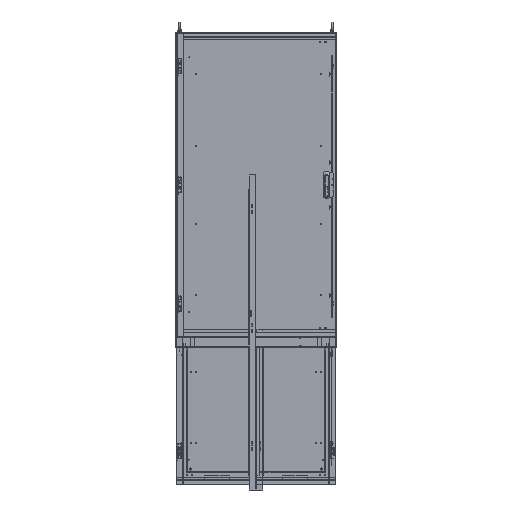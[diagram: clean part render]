
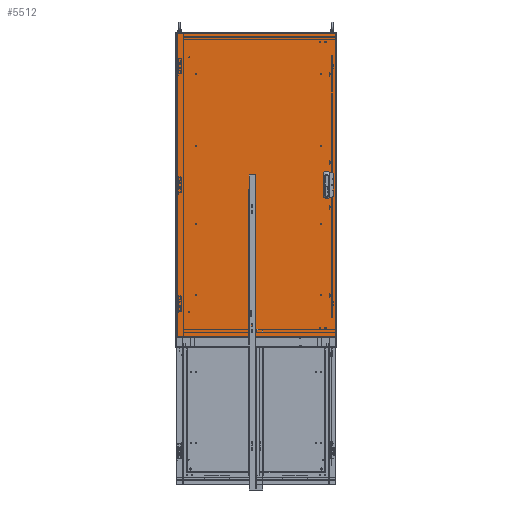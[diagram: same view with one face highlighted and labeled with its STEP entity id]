
A CAD part, front view. The second image highlights one B-rep face of the part: STEP entity #5512.
In plain terms, the highlighted planar face has unit normal (0, -1, 0).
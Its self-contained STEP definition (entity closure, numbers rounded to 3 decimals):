
#5512 = ADVANCED_FACE( '', ( #8370, #8371, #8372, #8373, #8374, #8375 ), #8376, .T. );
#8370 = FACE_BOUND( '', #13459, .T. );
#8371 = FACE_BOUND( '', #13460, .T. );
#8372 = FACE_BOUND( '', #13461, .T. );
#8373 = FACE_OUTER_BOUND( '', #13462, .T. );
#8374 = FACE_BOUND( '', #13463, .T. );
#8375 = FACE_BOUND( '', #13464, .T. );
#8376 = PLANE( '', #13465 );
#13459 = EDGE_LOOP( '', ( #23181, #23182, #23183, #23184 ) );
#13460 = EDGE_LOOP( '', ( #23185 ) );
#13461 = EDGE_LOOP( '', ( #23186, #23187, #23188, #23189 ) );
#13462 = EDGE_LOOP( '', ( #23190, #23191, #23192, #23193 ) );
#13463 = EDGE_LOOP( '', ( #23194, #23195, #23196, #23197 ) );
#13464 = EDGE_LOOP( '', ( #23198 ) );
#13465 = AXIS2_PLACEMENT_3D( '', #23199, #23200, #23201 );
#23181 = ORIENTED_EDGE( '', *, *, #38218, .F. );
#23182 = ORIENTED_EDGE( '', *, *, #38219, .F. );
#23183 = ORIENTED_EDGE( '', *, *, #38220, .F. );
#23184 = ORIENTED_EDGE( '', *, *, #38221, .F. );
#23185 = ORIENTED_EDGE( '', *, *, #38222, .T. );
#23186 = ORIENTED_EDGE( '', *, *, #38223, .F. );
#23187 = ORIENTED_EDGE( '', *, *, #38224, .F. );
#23188 = ORIENTED_EDGE( '', *, *, #38225, .F. );
#23189 = ORIENTED_EDGE( '', *, *, #38226, .F. );
#23190 = ORIENTED_EDGE( '', *, *, #38227, .T. );
#23191 = ORIENTED_EDGE( '', *, *, #38228, .F. );
#23192 = ORIENTED_EDGE( '', *, *, #38229, .F. );
#23193 = ORIENTED_EDGE( '', *, *, #38230, .F. );
#23194 = ORIENTED_EDGE( '', *, *, #38231, .T. );
#23195 = ORIENTED_EDGE( '', *, *, #38232, .T. );
#23196 = ORIENTED_EDGE( '', *, *, #38233, .T. );
#23197 = ORIENTED_EDGE( '', *, *, #38234, .T. );
#23198 = ORIENTED_EDGE( '', *, *, #38235, .T. );
#23199 = CARTESIAN_POINT( '', ( -497.65, 0., -948.531 ) );
#23200 = DIRECTION( '', ( 0., -1., 0. ) );
#23201 = DIRECTION( '', ( 0., 0., -1. ) );
#38218 = EDGE_CURVE( '', #44263, #44264, #44265, .T. );
#38219 = EDGE_CURVE( '', #44266, #44263, #44267, .T. );
#38220 = EDGE_CURVE( '', #44268, #44266, #44269, .T. );
#38221 = EDGE_CURVE( '', #44264, #44268, #44270, .T. );
#38222 = EDGE_CURVE( '', #44271, #44271, #44272, .T. );
#38223 = EDGE_CURVE( '', #44273, #44274, #44275, .T. );
#38224 = EDGE_CURVE( '', #44276, #44273, #44277, .T. );
#38225 = EDGE_CURVE( '', #44278, #44276, #44279, .T. );
#38226 = EDGE_CURVE( '', #44274, #44278, #44280, .T. );
#38227 = EDGE_CURVE( '', #44281, #44282, #44283, .T. );
#38228 = EDGE_CURVE( '', #44284, #44282, #44285, .T. );
#38229 = EDGE_CURVE( '', #44286, #44284, #44287, .T. );
#38230 = EDGE_CURVE( '', #44281, #44286, #44288, .T. );
#38231 = EDGE_CURVE( '', #44289, #44290, #44291, .T. );
#38232 = EDGE_CURVE( '', #44290, #44292, #44293, .T. );
#38233 = EDGE_CURVE( '', #44292, #44294, #44295, .T. );
#38234 = EDGE_CURVE( '', #44294, #44289, #44296, .T. );
#38235 = EDGE_CURVE( '', #44297, #44297, #44298, .T. );
#44263 = VERTEX_POINT( '', #54113 );
#44264 = VERTEX_POINT( '', #54114 );
#44265 = LINE( '', #54115, #54116 );
#44266 = VERTEX_POINT( '', #54117 );
#44267 = LINE( '', #54118, #54119 );
#44268 = VERTEX_POINT( '', #54120 );
#44269 = LINE( '', #54121, #54122 );
#44270 = LINE( '', #54123, #54124 );
#44271 = VERTEX_POINT( '', #54125 );
#44272 = CIRCLE( '', #54126, 4.013 );
#44273 = VERTEX_POINT( '', #54127 );
#44274 = VERTEX_POINT( '', #54128 );
#44275 = LINE( '', #54129, #54130 );
#44276 = VERTEX_POINT( '', #54131 );
#44277 = LINE( '', #54132, #54133 );
#44278 = VERTEX_POINT( '', #54134 );
#44279 = LINE( '', #54135, #54136 );
#44280 = LINE( '', #54137, #54138 );
#44281 = VERTEX_POINT( '', #54139 );
#44282 = VERTEX_POINT( '', #54140 );
#44283 = LINE( '', #54141, #54142 );
#44284 = VERTEX_POINT( '', #54143 );
#44285 = LINE( '', #54144, #54145 );
#44286 = VERTEX_POINT( '', #54146 );
#44287 = LINE( '', #54147, #54148 );
#44288 = LINE( '', #54149, #54150 );
#44289 = VERTEX_POINT( '', #54151 );
#44290 = VERTEX_POINT( '', #54152 );
#44291 = LINE( '', #54153, #54154 );
#44292 = VERTEX_POINT( '', #54155 );
#44293 = LINE( '', #54156, #54157 );
#44294 = VERTEX_POINT( '', #54158 );
#44295 = LINE( '', #54159, #54160 );
#44296 = LINE( '', #54161, #54162 );
#44297 = VERTEX_POINT( '', #54163 );
#44298 = CIRCLE( '', #54164, 4.013 );
#54113 = CARTESIAN_POINT( '', ( -450.132, 0., 75.006 ) );
#54114 = CARTESIAN_POINT( '', ( -450.132, 0., 24.994 ) );
#54115 = CARTESIAN_POINT( '', ( -450.132, 0., 75.006 ) );
#54116 = VECTOR( '', #68796, 1000. );
#54117 = CARTESIAN_POINT( '', ( -425.138, 0., 75.006 ) );
#54118 = CARTESIAN_POINT( '', ( -425.138, 0., 75.006 ) );
#54119 = VECTOR( '', #68797, 1000. );
#54120 = CARTESIAN_POINT( '', ( -425.138, 0., 24.994 ) );
#54121 = CARTESIAN_POINT( '', ( -425.138, 0., 24.994 ) );
#54122 = VECTOR( '', #68798, 1000. );
#54123 = CARTESIAN_POINT( '', ( -450.132, 0., 24.994 ) );
#54124 = VECTOR( '', #68799, 1000. );
#54125 = CARTESIAN_POINT( '', ( -469.613, 0., 35.001 ) );
#54126 = AXIS2_PLACEMENT_3D( '', #68800, #68801, #68802 );
#54127 = CARTESIAN_POINT( '', ( -474.147, 0., 15.875 ) );
#54128 = CARTESIAN_POINT( '', ( -474.147, 0., -15.875 ) );
#54129 = CARTESIAN_POINT( '', ( -474.147, 0., 15.875 ) );
#54130 = VECTOR( '', #68803, 1000. );
#54131 = CARTESIAN_POINT( '', ( -469.143, 0., 15.875 ) );
#54132 = CARTESIAN_POINT( '', ( -469.143, 0., 15.875 ) );
#54133 = VECTOR( '', #68804, 1000. );
#54134 = CARTESIAN_POINT( '', ( -469.143, 0., -15.875 ) );
#54135 = CARTESIAN_POINT( '', ( -469.143, 0., -15.875 ) );
#54136 = VECTOR( '', #68805, 1000. );
#54137 = CARTESIAN_POINT( '', ( -474.147, 0., -15.875 ) );
#54138 = VECTOR( '', #68806, 1000. );
#54139 = CARTESIAN_POINT( '', ( 494.906, 0., 945.788 ) );
#54140 = CARTESIAN_POINT( '', ( -494.906, 0., 945.788 ) );
#54141 = CARTESIAN_POINT( '', ( 494.906, 0., 945.788 ) );
#54142 = VECTOR( '', #68807, 1000. );
#54143 = CARTESIAN_POINT( '', ( -494.906, 0., -945.788 ) );
#54144 = CARTESIAN_POINT( '', ( -494.906, 0., -945.788 ) );
#54145 = VECTOR( '', #68808, 1000. );
#54146 = CARTESIAN_POINT( '', ( 494.906, 0., -945.788 ) );
#54147 = CARTESIAN_POINT( '', ( 494.906, 0., -945.788 ) );
#54148 = VECTOR( '', #68809, 1000. );
#54149 = CARTESIAN_POINT( '', ( 494.906, 0., 945.788 ) );
#54150 = VECTOR( '', #68810, 1000. );
#54151 = CARTESIAN_POINT( '', ( -450.132, 0., -25.019 ) );
#54152 = CARTESIAN_POINT( '', ( -425.138, 0., -25.019 ) );
#54153 = CARTESIAN_POINT( '', ( -450.132, 0., -25.019 ) );
#54154 = VECTOR( '', #68811, 1000. );
#54155 = CARTESIAN_POINT( '', ( -425.138, 0., -75.032 ) );
#54156 = CARTESIAN_POINT( '', ( -425.138, 0., -25.019 ) );
#54157 = VECTOR( '', #68812, 1000. );
#54158 = CARTESIAN_POINT( '', ( -450.132, 0., -75.032 ) );
#54159 = CARTESIAN_POINT( '', ( -425.138, 0., -75.032 ) );
#54160 = VECTOR( '', #68813, 1000. );
#54161 = CARTESIAN_POINT( '', ( -450.132, 0., -75.032 ) );
#54162 = VECTOR( '', #68814, 1000. );
#54163 = CARTESIAN_POINT( '', ( -469.613, 0., -35.001 ) );
#54164 = AXIS2_PLACEMENT_3D( '', #68815, #68816, #68817 );
#68796 = DIRECTION( '', ( 0., 0., -1. ) );
#68797 = DIRECTION( '', ( -1., 0., 0. ) );
#68798 = DIRECTION( '', ( 0., 0., 1. ) );
#68799 = DIRECTION( '', ( 1., 0., 0. ) );
#68800 = CARTESIAN_POINT( '', ( -473.627, 0., 35.001 ) );
#68801 = DIRECTION( '', ( 0., 1., 0. ) );
#68802 = DIRECTION( '', ( 1., 0., 0. ) );
#68803 = DIRECTION( '', ( 0., 0., -1. ) );
#68804 = DIRECTION( '', ( -1., 0., 0. ) );
#68805 = DIRECTION( '', ( 0., 0., 1. ) );
#68806 = DIRECTION( '', ( 1., 0., 0. ) );
#68807 = DIRECTION( '', ( -1., 0., 0. ) );
#68808 = DIRECTION( '', ( 0., 0., 1. ) );
#68809 = DIRECTION( '', ( -1., 0., 0. ) );
#68810 = DIRECTION( '', ( 0., 0., -1. ) );
#68811 = DIRECTION( '', ( 1., 0., 0. ) );
#68812 = DIRECTION( '', ( 0., 0., -1. ) );
#68813 = DIRECTION( '', ( -1., 0., 0. ) );
#68814 = DIRECTION( '', ( 0., 0., 1. ) );
#68815 = CARTESIAN_POINT( '', ( -473.627, 0., -35.001 ) );
#68816 = DIRECTION( '', ( 0., 1., 0. ) );
#68817 = DIRECTION( '', ( 1., 0., 0. ) );
